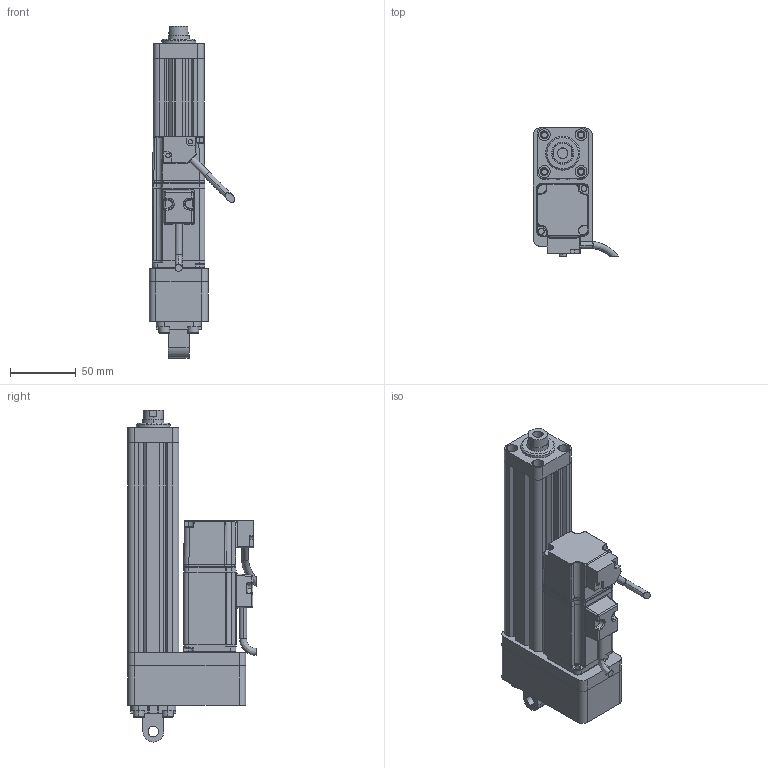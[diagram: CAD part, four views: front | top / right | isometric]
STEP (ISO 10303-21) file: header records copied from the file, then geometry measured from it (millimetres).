
FILE_DESCRIPTION (( 'STEP AP214' ), '1' );
FILE_NAME ('039-S100-D02-B-M5-C2-2.STEP', '2021-03-02T05:04:48', ( '' ), ( '' ), 'SwSTEP 2.0', 'SolidWorks 2018', '' );
FILE_SCHEMA (( 'AUTOMOTIVE_DESIGN' ));
Length unit declared in the file: millimetre
Products named in the file (8): CMC039-LJB; CMC039-GT; CMC039-FL; 039-S100-D02-B-M5-C2-2; ECMA-CX0401ES-40框號系列機種-100W低慣量系列; F-ACE20CA_ACE_; CMC039-HXT; CMC039-DT
Assembly tree (7 placements, depth 2):
  039-S100-D02-B-M5-C2-2
    CMC039-GT
    CMC039-LJB
    CMC039-FL
    CMC039-DT
    ECMA-CX0401ES-40框號系列機種-100W低慣量系列
    CMC039-HXT
    F-ACE20CA_ACE_
Bounding box: 65.34 x 97.89 x 253 mm (x, y, z)
Volume: 424106.4 mm3; surface area: 132414 mm2
Topology: 7 solids, 15 shells, 762 faces, 1992 edges, 1249 vertices
Faces by surface type: cylinder 321, plane 302, bspline 92, cone 47
Entity records: 29754 total; most frequent: CARTESIAN_POINT 11639, ORIENTED_EDGE 3918, DIRECTION 3319, EDGE_CURVE 1959, VERTEX_POINT 1249, AXIS2_PLACEMENT_3D 1176, LINE 967, VECTOR 967
